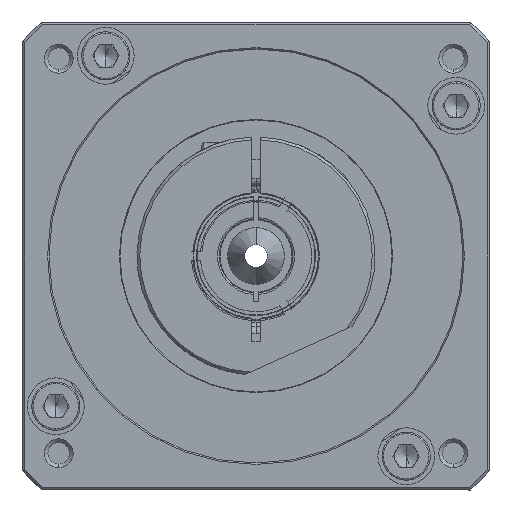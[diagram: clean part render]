
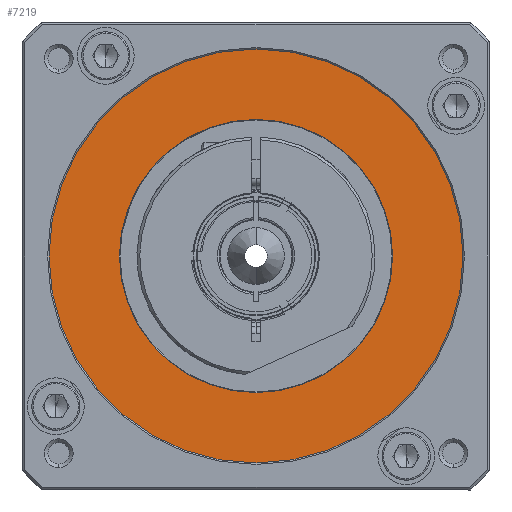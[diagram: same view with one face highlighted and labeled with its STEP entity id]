
A CAD part, left-side view. The second image highlights one B-rep face of the part: STEP entity #7219.
In plain terms, the highlighted planar face has unit normal (-1, 0, 0).
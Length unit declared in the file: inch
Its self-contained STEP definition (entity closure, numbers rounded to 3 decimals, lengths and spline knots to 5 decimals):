
#363 = VERTEX_POINT ( 'NONE', #14311 ) ;
#748 = EDGE_CURVE ( 'NONE', #13095, #363, #4342, .T. ) ;
#817 = AXIS2_PLACEMENT_3D ( 'NONE', #13044, #14618, #12067 ) ;
#1393 = DIRECTION ( 'NONE',  ( 1., 0., 0. ) ) ;
#1670 = DIRECTION ( 'NONE',  ( 0., 0., -1. ) ) ;
#1684 = EDGE_LOOP ( 'NONE', ( #9591, #2067 ) ) ;
#1953 = DIRECTION ( 'NONE',  ( 0., 0., 1. ) ) ;
#2067 = ORIENTED_EDGE ( 'NONE', *, *, #748, .T. ) ;
#2342 = ORIENTED_EDGE ( 'NONE', *, *, #12138, .T. ) ;
#2537 = FACE_BOUND ( 'NONE', #5364, .T. ) ;
#4209 = CIRCLE ( 'NONE', #817, 0.94882 ) ;
#4342 = CIRCLE ( 'NONE', #14722, 1.4375 ) ;
#4623 = VERTEX_POINT ( 'NONE', #4711 ) ;
#4639 = AXIS2_PLACEMENT_3D ( 'NONE', #6763, #1393, #10708 ) ;
#4711 = CARTESIAN_POINT ( 'NONE',  ( -5.54724, 0., -0.94882 ) ) ;
#5364 = EDGE_LOOP ( 'NONE', ( #2342, #8172 ) ) ;
#5384 = CARTESIAN_POINT ( 'NONE',  ( -5.54724, 0., -1.4375 ) ) ;
#5564 = DIRECTION ( 'NONE',  ( 1., 0., 0. ) ) ;
#6141 = CIRCLE ( 'NONE', #6696, 1.4375 ) ;
#6696 = AXIS2_PLACEMENT_3D ( 'NONE', #10995, #6955, #8343 ) ;
#6763 = CARTESIAN_POINT ( 'NONE',  ( -5.54724, 0.94488, 0. ) ) ;
#6955 = DIRECTION ( 'NONE',  ( -1., 0., 0. ) ) ;
#7071 = DIRECTION ( 'NONE',  ( -1., 0., 0. ) ) ;
#7219 = ADVANCED_FACE ( 'NONE', ( #2537, #14498 ), #8960, .F. ) ;
#7794 = EDGE_CURVE ( 'NONE', #4623, #8420, #4209, .T. ) ;
#8172 = ORIENTED_EDGE ( 'NONE', *, *, #7794, .T. ) ;
#8343 = DIRECTION ( 'NONE',  ( 0., 0., 1. ) ) ;
#8420 = VERTEX_POINT ( 'NONE', #10766 ) ;
#8960 = PLANE ( 'NONE',  #4639 ) ;
#9591 = ORIENTED_EDGE ( 'NONE', *, *, #13982, .T. ) ;
#9947 = CARTESIAN_POINT ( 'NONE',  ( -5.54724, 0., 0. ) ) ;
#10661 = AXIS2_PLACEMENT_3D ( 'NONE', #13645, #5564, #1670 ) ;
#10708 = DIRECTION ( 'NONE',  ( 0., 0., -1. ) ) ;
#10766 = CARTESIAN_POINT ( 'NONE',  ( -5.54724, 0., 0.94882 ) ) ;
#10995 = CARTESIAN_POINT ( 'NONE',  ( -5.54724, 0., 0. ) ) ;
#12067 = DIRECTION ( 'NONE',  ( 0., 0., -1. ) ) ;
#12138 = EDGE_CURVE ( 'NONE', #8420, #4623, #17070, .T. ) ;
#13044 = CARTESIAN_POINT ( 'NONE',  ( -5.54724, 0., 0. ) ) ;
#13095 = VERTEX_POINT ( 'NONE', #5384 ) ;
#13645 = CARTESIAN_POINT ( 'NONE',  ( -5.54724, 0., 0. ) ) ;
#13982 = EDGE_CURVE ( 'NONE', #363, #13095, #6141, .T. ) ;
#14311 = CARTESIAN_POINT ( 'NONE',  ( -5.54724, 0., 1.4375 ) ) ;
#14498 = FACE_OUTER_BOUND ( 'NONE', #1684, .T. ) ;
#14618 = DIRECTION ( 'NONE',  ( 1., 0., 0. ) ) ;
#14722 = AXIS2_PLACEMENT_3D ( 'NONE', #9947, #7071, #1953 ) ;
#17070 = CIRCLE ( 'NONE', #10661, 0.94882 ) ;
